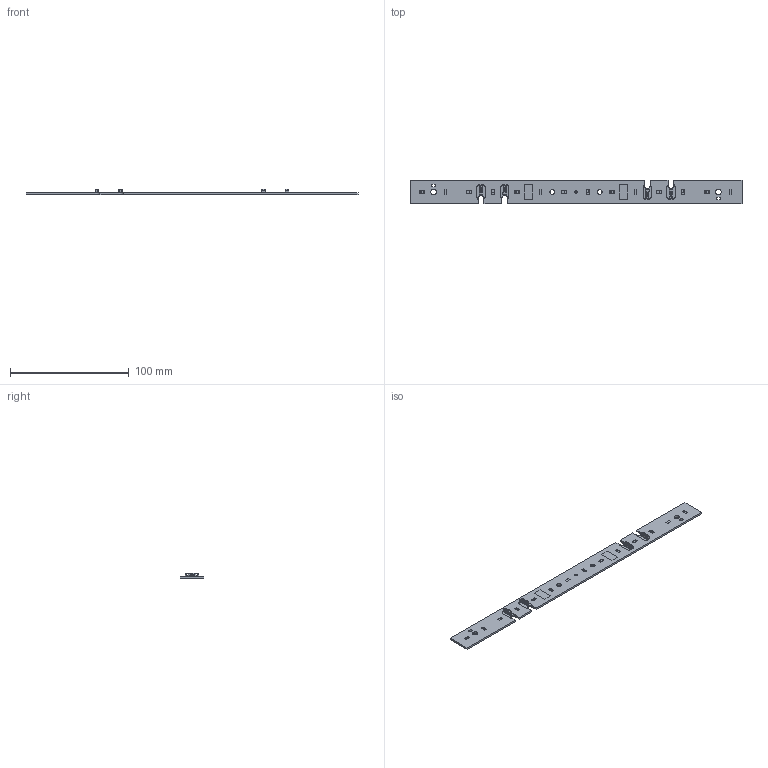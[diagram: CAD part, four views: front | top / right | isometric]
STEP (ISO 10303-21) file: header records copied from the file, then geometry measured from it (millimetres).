
FILE_DESCRIPTION(('CATIA V5 STEP Exchange'),'2;1');
FILE_NAME('C:\Users\jouko.kotitalo\Desktop\pdf_exports\DAISY-MINI-14X1_1_LED_REFERENCE-PCB_002.stp','2019-06-25T10:49:44+00:00',('none'),('none'),'CATIA Version 5-6 Release 2018 SP4','CATIA V5 STEP AP203','none');
FILE_SCHEMA(('CONFIG_CONTROL_DESIGN'));
Products named in the file (1): DAISY-MINI_PCB_DRAWING_1_LED
Bounding box: 279.65 x 20 x 4.7 mm (x, y, z)
Volume: 8712 mm3; surface area: 12751.5 mm2
Topology: 33 solids, 33 shells, 2082 faces, 5672 edges, 3674 vertices
Faces by surface type: plane 1344, cylinder 534, cone 88, torus 84, extrusion 16, bspline 16
Entity records: 65798 total; most frequent: CARTESIAN_POINT 16299, ORIENTED_EDGE 11308, DIRECTION 8376, EDGE_CURVE 5654, VECTOR 4218, LINE 4202, VERTEX_POINT 3644, AXIS2_PLACEMENT_3D 2493
